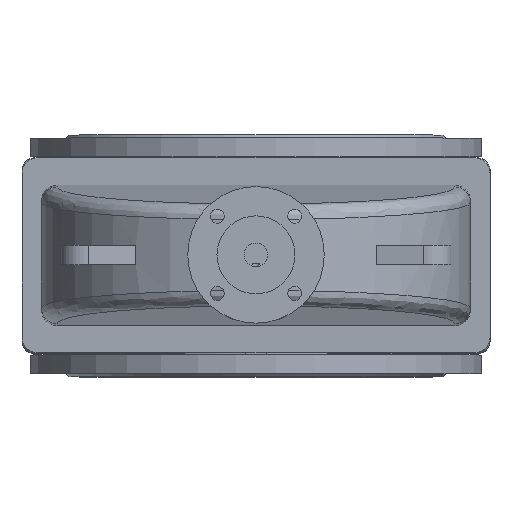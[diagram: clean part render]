
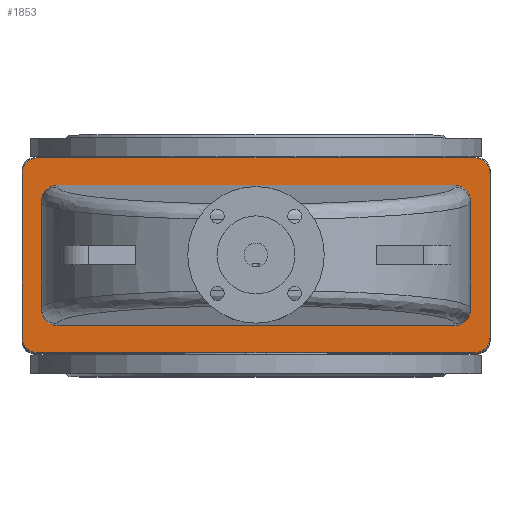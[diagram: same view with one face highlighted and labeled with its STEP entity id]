
A CAD part, top view. The second image highlights one B-rep face of the part: STEP entity #1853.
In plain terms, the highlighted planar face has unit normal (0, 0, 1).
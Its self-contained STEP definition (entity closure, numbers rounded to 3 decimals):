
#1853=ADVANCED_FACE('',(#5485,#5487),#5489,.T.);
#5485=FACE_BOUND('',#5486,.T.);
#5486=EDGE_LOOP('',(#7413,#7414,#7415,#7416,#7417,#7418,#7419,#7420));
#5487=FACE_BOUND('',#5488,.T.);
#5488=EDGE_LOOP('',(#7421,#7422,#7423,#7424,#7425,#7426,#7427,#7428));
#5489=PLANE('',#5490);
#5490=AXIS2_PLACEMENT_3D('',#5491,#5492,#5493);
#5491=CARTESIAN_POINT('',(0.,0.,466.));
#5492=DIRECTION('',(0.,-0.,1.));
#5493=DIRECTION('',(0.,1.,0.));
#7413=ORIENTED_EDGE('',*,*,#8057,.F.);
#7414=ORIENTED_EDGE('',*,*,#8070,.T.);
#7415=ORIENTED_EDGE('',*,*,#8069,.F.);
#7416=ORIENTED_EDGE('',*,*,#8067,.T.);
#7417=ORIENTED_EDGE('',*,*,#8065,.F.);
#7418=ORIENTED_EDGE('',*,*,#8063,.T.);
#7419=ORIENTED_EDGE('',*,*,#8061,.F.);
#7420=ORIENTED_EDGE('',*,*,#8058,.T.);
#7421=ORIENTED_EDGE('',*,*,#8071,.F.);
#7422=ORIENTED_EDGE('',*,*,#8072,.F.);
#7423=ORIENTED_EDGE('',*,*,#8073,.F.);
#7424=ORIENTED_EDGE('',*,*,#8074,.F.);
#7425=ORIENTED_EDGE('',*,*,#8075,.F.);
#7426=ORIENTED_EDGE('',*,*,#8076,.F.);
#7427=ORIENTED_EDGE('',*,*,#8077,.F.);
#7428=ORIENTED_EDGE('',*,*,#8078,.F.);
#8057=EDGE_CURVE('',#8943,#8941,#8945,.F.);
#8058=EDGE_CURVE('',#8946,#8941,#8947,.T.);
#8061=EDGE_CURVE('',#8946,#8949,#8951,.F.);
#8063=EDGE_CURVE('',#8952,#8949,#8954,.T.);
#8065=EDGE_CURVE('',#8952,#8955,#8957,.F.);
#8067=EDGE_CURVE('',#8958,#8955,#8960,.T.);
#8069=EDGE_CURVE('',#8958,#8961,#8963,.F.);
#8070=EDGE_CURVE('',#8943,#8961,#8964,.T.);
#8071=EDGE_CURVE('',#8965,#8966,#8967,.F.);
#8072=EDGE_CURVE('',#8968,#8965,#8969,.T.);
#8073=EDGE_CURVE('',#8970,#8968,#8971,.T.);
#8074=EDGE_CURVE('',#8972,#8970,#8973,.T.);
#8075=EDGE_CURVE('',#8974,#8972,#8975,.F.);
#8076=EDGE_CURVE('',#8976,#8974,#8977,.T.);
#8077=EDGE_CURVE('',#8978,#8976,#8979,.T.);
#8078=EDGE_CURVE('',#8966,#8978,#8980,.T.);
#8941=VERTEX_POINT('',#11851);
#8943=VERTEX_POINT('',#11855);
#8945=CIRCLE('',#11859,20.);
#8946=VERTEX_POINT('',#11863);
#8947=LINE('',#11864,#11865);
#8949=VERTEX_POINT('',#11870);
#8951=CIRCLE('',#11874,20.);
#8952=VERTEX_POINT('',#11878);
#8954=LINE('',#11882,#11883);
#8955=VERTEX_POINT('',#11885);
#8957=CIRCLE('',#11889,20.);
#8958=VERTEX_POINT('',#11893);
#8960=LINE('',#11897,#11898);
#8961=VERTEX_POINT('',#11900);
#8963=CIRCLE('',#11904,20.);
#8964=LINE('',#11908,#11909);
#8965=VERTEX_POINT('',#11911);
#8966=VERTEX_POINT('',#11912);
#8967=(BOUNDED_CURVE()B_SPLINE_CURVE(3,
(#11913,#11914,#11915,#11916),
.UNSPECIFIED.,.F.,.F.)B_SPLINE_CURVE_WITH_KNOTS((4,4),
(0.,1.),
.UNSPECIFIED.)CURVE()GEOMETRIC_REPRESENTATION_ITEM()RATIONAL_B_SPLINE_CURVE((1.,
0.805,0.805,1.))REPRESENTATION_ITEM(''));
#8968=VERTEX_POINT('',#11917);
#8969=LINE('',#11918,#11919);
#8970=VERTEX_POINT('',#11921);
#8971=(BOUNDED_CURVE()B_SPLINE_CURVE(3,
(#11922,#11923,#11924,#11925),
.UNSPECIFIED.,.F.,.F.)B_SPLINE_CURVE_WITH_KNOTS((4,4),
(0.,1.),
.UNSPECIFIED.)CURVE()GEOMETRIC_REPRESENTATION_ITEM()RATIONAL_B_SPLINE_CURVE((1.,
0.805,0.805,1.))REPRESENTATION_ITEM(''));
#8972=VERTEX_POINT('',#11926);
#8973=LINE('',#11927,#11928);
#8974=VERTEX_POINT('',#11930);
#8975=(BOUNDED_CURVE()B_SPLINE_CURVE(3,
(#11931,#11932,#11933,#11934),
.UNSPECIFIED.,.F.,.F.)B_SPLINE_CURVE_WITH_KNOTS((4,4),
(0.,1.),
.UNSPECIFIED.)CURVE()GEOMETRIC_REPRESENTATION_ITEM()RATIONAL_B_SPLINE_CURVE((1.,
0.805,0.805,1.))REPRESENTATION_ITEM(''));
#8976=VERTEX_POINT('',#11935);
#8977=LINE('',#11936,#11937);
#8978=VERTEX_POINT('',#11939);
#8979=(BOUNDED_CURVE()B_SPLINE_CURVE(3,
(#11940,#11941,#11942,#11943),
.UNSPECIFIED.,.F.,.F.)B_SPLINE_CURVE_WITH_KNOTS((4,4),
(0.,1.),
.UNSPECIFIED.)CURVE()GEOMETRIC_REPRESENTATION_ITEM()RATIONAL_B_SPLINE_CURVE((1.,
0.805,0.805,1.))REPRESENTATION_ITEM(''));
#8980=LINE('',#11944,#11945);
#11851=CARTESIAN_POINT('',(-300.,-105.,466.));
#11855=CARTESIAN_POINT('',(-280.,-125.,466.));
#11859=AXIS2_PLACEMENT_3D('',#11860,#11861,#11862);
#11860=CARTESIAN_POINT('',(-280.,-105.,466.));
#11861=DIRECTION('',(0.,-0.,1.));
#11862=DIRECTION('',(-1.,0.,0.));
#11863=CARTESIAN_POINT('',(-300.,105.,466.));
#11864=CARTESIAN_POINT('',(-300.,105.,466.));
#11865=VECTOR('',#11866,1.);
#11866=DIRECTION('',(0.,-1.,0.));
#11870=CARTESIAN_POINT('',(-280.,125.,466.));
#11874=AXIS2_PLACEMENT_3D('',#11875,#11876,#11877);
#11875=CARTESIAN_POINT('',(-280.,105.,466.));
#11876=DIRECTION('',(0.,-0.,1.));
#11877=DIRECTION('',(0.,1.,0.));
#11878=CARTESIAN_POINT('',(280.,125.,466.));
#11882=CARTESIAN_POINT('',(280.,125.,466.));
#11883=VECTOR('',#11884,1.);
#11884=DIRECTION('',(-1.,0.,0.));
#11885=CARTESIAN_POINT('',(300.,105.,466.));
#11889=AXIS2_PLACEMENT_3D('',#11890,#11891,#11892);
#11890=CARTESIAN_POINT('',(280.,105.,466.));
#11891=DIRECTION('',(0.,-0.,1.));
#11892=DIRECTION('',(1.,0.,0.));
#11893=CARTESIAN_POINT('',(300.,-105.,466.));
#11897=CARTESIAN_POINT('',(300.,-105.,466.));
#11898=VECTOR('',#11899,1.);
#11899=DIRECTION('',(0.,1.,0.));
#11900=CARTESIAN_POINT('',(280.,-125.,466.));
#11904=AXIS2_PLACEMENT_3D('',#11905,#11906,#11907);
#11905=CARTESIAN_POINT('',(280.,-105.,466.));
#11906=DIRECTION('',(0.,-0.,1.));
#11907=DIRECTION('',(0.,-1.,0.));
#11908=CARTESIAN_POINT('',(-280.,-125.,466.));
#11909=VECTOR('',#11910,1.);
#11910=DIRECTION('',(1.,0.,0.));
#11911=CARTESIAN_POINT('',(255.,-90.,466.));
#11912=CARTESIAN_POINT('',(275.,-69.924,466.));
#11913=CARTESIAN_POINT('',(275.,-69.924,466.));
#11914=CARTESIAN_POINT('',(275.,-81.684,466.));
#11915=CARTESIAN_POINT('',(266.716,-90.,466.));
#11916=CARTESIAN_POINT('',(255.,-90.,466.));
#11917=CARTESIAN_POINT('',(-255.,-90.,466.));
#11918=CARTESIAN_POINT('',(-255.,-90.,466.));
#11919=VECTOR('',#11920,1.);
#11920=DIRECTION('',(1.,0.,0.));
#11921=CARTESIAN_POINT('',(-275.,-69.924,466.));
#11922=CARTESIAN_POINT('',(-275.,-69.924,466.));
#11923=CARTESIAN_POINT('',(-275.,-81.684,466.));
#11924=CARTESIAN_POINT('',(-266.716,-90.,466.));
#11925=CARTESIAN_POINT('',(-255.,-90.,466.));
#11926=CARTESIAN_POINT('',(-275.,69.924,466.));
#11927=CARTESIAN_POINT('',(-275.,69.924,466.));
#11928=VECTOR('',#11929,1.);
#11929=DIRECTION('',(0.,-1.,0.));
#11930=CARTESIAN_POINT('',(-255.,90.,466.));
#11931=CARTESIAN_POINT('',(-275.,69.924,466.));
#11932=CARTESIAN_POINT('',(-275.,81.684,466.));
#11933=CARTESIAN_POINT('',(-266.716,90.,466.));
#11934=CARTESIAN_POINT('',(-255.,90.,466.));
#11935=CARTESIAN_POINT('',(255.,90.,466.));
#11936=CARTESIAN_POINT('',(255.,90.,466.));
#11937=VECTOR('',#11938,1.);
#11938=DIRECTION('',(-1.,0.,0.));
#11939=CARTESIAN_POINT('',(275.,69.924,466.));
#11940=CARTESIAN_POINT('',(275.,69.924,466.));
#11941=CARTESIAN_POINT('',(275.,81.684,466.));
#11942=CARTESIAN_POINT('',(266.716,90.,466.));
#11943=CARTESIAN_POINT('',(255.,90.,466.));
#11944=CARTESIAN_POINT('',(275.,-69.924,466.));
#11945=VECTOR('',#11946,1.);
#11946=DIRECTION('',(0.,1.,0.));
